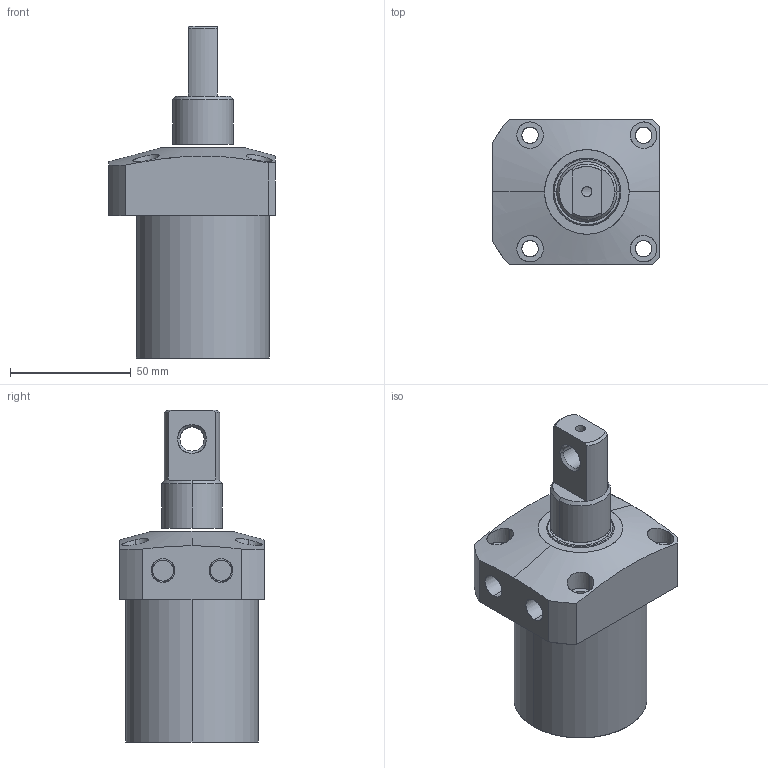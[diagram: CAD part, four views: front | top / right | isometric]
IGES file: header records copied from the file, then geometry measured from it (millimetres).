
Start section: SolidWorks IGES file using analytic representation for surfaces
Global section: file name: E:\karthik\CLASYS\Pneumatic Swing cylinders\Top mount cyl 0311-P\55\0312-0551.IGS; native system: SolidWorks 2010; preprocessor: SolidWorks 2010; author: karthik; date: 130916.102220; units: millimetre
Bounding box: 69 x 60 x 137.5 mm (x, y, z)
Surface area: 32228.6 mm2 (no closed solid volume)
Topology: 0 solids, 0 shells, 105 faces, 2613 edges, 2613 vertices
Faces by surface type: revolution 76, bspline 29
